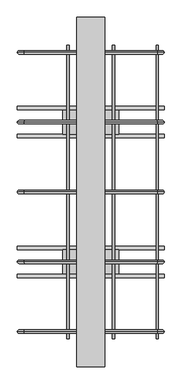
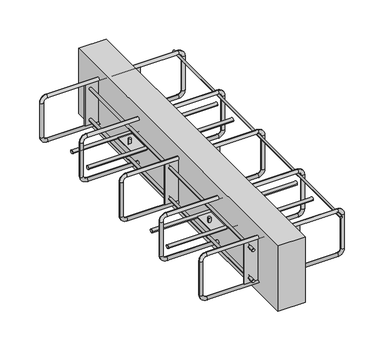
"""IFC4 building model written with IfcOpenShell, lengths in millimetres: fastener geometry, ACINOXplus_Typenreihe_Ux-Ox : OB+ S2."""

from ifc_helpers import new_model, si_unit, point, frame, frame_2d, origin, place, context, project, spatial, polyline, circle_curve, ellipse_curve, trimmed, segment, composite_curve, outline, extrude, source, transform, mapped, element, save
from ifc_brep_helpers import cylinder_surface, revolved_surface, advanced_brep


def fastener_c893254c(model_context):
    return source(origin(), model_context, "Body", "SolidModel", [
        extrude(outline(composite_curve([segment(trimmed(circle_curve(frame_2d((-40.5, 190.0)), 3.0), [point((-40.5, 193.0))], [point((-40.5, 187.0))], False, "CARTESIAN"), True, "CONTINUOUS"), segment(trimmed(circle_curve(frame_2d((-40.5, 190.0)), 3.0), [point((-40.5, 187.0))], [point((-40.5, 193.0))], False, "CARTESIAN"), True, "CONTINUOUS")], self_intersect=False)), frame((0.0, -420.0, 0.0), z_axis=(0.0, 1.0, 0.0), x_axis=(0.0, 0.0, 1.0)), (0.0, 0.0, 1.0), 840.0),
        extrude(outline(composite_curve([segment(trimmed(circle_curve(frame_2d((-240.0, -100.0)), 5.0), [point((-245.0, -100.0))], [point((-235.0, -100.0))], False, "CARTESIAN"), True, "CONTINUOUS"), segment(trimmed(circle_curve(frame_2d((-240.0, -100.0)), 5.0), [point((-235.0, -100.0))], [point((-245.0, -100.0))], False, "CARTESIAN"), True, "CONTINUOUS")], self_intersect=False)), frame((-210.0, 0.0, 0.0), z_axis=(1.0, 0.0, 0.0), x_axis=(0.0, 1.0, 0.0)), (0.0, 0.0, 1.0), 420.0),
        extrude(outline(composite_curve([segment(trimmed(circle_curve(frame_2d((-160.0, -100.0)), 5.0), [point((-165.0, -100.0))], [point((-155.0, -100.0))], False, "CARTESIAN"), True, "CONTINUOUS"), segment(trimmed(circle_curve(frame_2d((-160.0, -100.0)), 5.0), [point((-155.0, -100.0))], [point((-165.0, -100.0))], False, "CARTESIAN"), True, "CONTINUOUS")], self_intersect=False)), frame((-210.0, 0.0, 0.0), z_axis=(1.0, 0.0, 0.0), x_axis=(0.0, 1.0, 0.0)), (0.0, 0.0, 1.0), 420.0),
        extrude(outline(composite_curve([segment(trimmed(circle_curve(frame_2d((-65.0, -200.0)), 4.0), [point((-61.0, -200.0))], [point((-69.0, -200.0))], False, "CARTESIAN"), True, "CONTINUOUS"), segment(trimmed(circle_curve(frame_2d((-65.0, -200.0)), 4.0), [point((-69.0, -200.0))], [point((-61.0, -200.0))], False, "CARTESIAN"), True, "CONTINUOUS")], self_intersect=False)), frame((0.0, 0.0, -98.5), z_axis=(0.0, 0.0, 1.0), x_axis=(1.0, 0.0, 0.0)), (0.0, 0.0, 1.0), 13.5),
        extrude(outline(composite_curve([segment(trimmed(circle_curve(frame_2d((65.0, -200.0)), 4.0), [point((69.0, -200.0))], [point((61.0, -200.0))], False, "CARTESIAN"), True, "CONTINUOUS"), segment(trimmed(circle_curve(frame_2d((65.0, -200.0)), 4.0), [point((61.0, -200.0))], [point((69.0, -200.0))], False, "CARTESIAN"), True, "CONTINUOUS")], self_intersect=False)), frame((0.0, 0.0, -98.5), z_axis=(0.0, 0.0, 1.0), x_axis=(1.0, 0.0, 0.0)), (0.0, 0.0, 1.0), 13.5),
        extrude(outline(composite_curve([segment(trimmed(circle_curve(frame_2d((-65.0, -200.0)), 4.0), [point((-69.0, -200.0))], [point((-61.0, -200.0))], False, "CARTESIAN"), True, "CONTINUOUS"), segment(trimmed(circle_curve(frame_2d((-65.0, -200.0)), 4.0), [point((-61.0, -200.0))], [point((-69.0, -200.0))], False, "CARTESIAN"), True, "CONTINUOUS")], self_intersect=False)), frame((0.0, 0.0, -115.0), z_axis=(0.0, 0.0, 1.0), x_axis=(1.0, 0.0, 0.0)), (0.0, 0.0, 1.0), 13.5),
        extrude(outline(composite_curve([segment(trimmed(circle_curve(frame_2d((65.0, -200.0)), 4.0), [point((61.0, -200.0))], [point((69.0, -200.0))], False, "CARTESIAN"), True, "CONTINUOUS"), segment(trimmed(circle_curve(frame_2d((65.0, -200.0)), 4.0), [point((69.0, -200.0))], [point((61.0, -200.0))], False, "CARTESIAN"), True, "CONTINUOUS")], self_intersect=False)), frame((0.0, 0.0, -115.0), z_axis=(0.0, 0.0, 1.0), x_axis=(1.0, 0.0, 0.0)), (0.0, 0.0, 1.0), 13.5),
        extrude(outline(polyline([(80.0, -165.0), (80.0, -235.0), (-80.0, -235.0), (-80.0, -165.0), (80.0, -165.0)])), frame((0.0, 0.0, -101.5), z_axis=(0.0, 0.0, 1.0), x_axis=(1.0, 0.0, 0.0)), (0.0, 0.0, 1.0), 3.0),
        extrude(outline(composite_curve([segment(trimmed(circle_curve(frame_2d((160.0, -100.0)), 5.0), [point((155.0, -100.0))], [point((165.0, -100.0))], False, "CARTESIAN"), True, "CONTINUOUS"), segment(trimmed(circle_curve(frame_2d((160.0, -100.0)), 5.0), [point((165.0, -100.0))], [point((155.0, -100.0))], False, "CARTESIAN"), True, "CONTINUOUS")], self_intersect=False)), frame((-210.0, 0.0, 0.0), z_axis=(1.0, 0.0, 0.0), x_axis=(0.0, 1.0, 0.0)), (0.0, 0.0, 1.0), 420.0),
        extrude(outline(composite_curve([segment(trimmed(circle_curve(frame_2d((240.0, -100.0)), 5.0), [point((235.0, -100.0))], [point((245.0, -100.0))], False, "CARTESIAN"), True, "CONTINUOUS"), segment(trimmed(circle_curve(frame_2d((240.0, -100.0)), 5.0), [point((245.0, -100.0))], [point((235.0, -100.0))], False, "CARTESIAN"), True, "CONTINUOUS")], self_intersect=False)), frame((-210.0, 0.0, 0.0), z_axis=(1.0, 0.0, 0.0), x_axis=(0.0, 1.0, 0.0)), (0.0, 0.0, 1.0), 420.0),
        extrude(outline(composite_curve([segment(trimmed(circle_curve(frame_2d((-65.0, 200.0)), 4.0), [point((-61.0, 200.0))], [point((-69.0, 200.0))], False, "CARTESIAN"), True, "CONTINUOUS"), segment(trimmed(circle_curve(frame_2d((-65.0, 200.0)), 4.0), [point((-69.0, 200.0))], [point((-61.0, 200.0))], False, "CARTESIAN"), True, "CONTINUOUS")], self_intersect=False)), frame((0.0, 0.0, -98.5), z_axis=(0.0, 0.0, 1.0), x_axis=(1.0, 0.0, 0.0)), (0.0, 0.0, 1.0), 13.5),
        extrude(outline(composite_curve([segment(trimmed(circle_curve(frame_2d((65.0, 200.0)), 4.0), [point((69.0, 200.0))], [point((61.0, 200.0))], False, "CARTESIAN"), True, "CONTINUOUS"), segment(trimmed(circle_curve(frame_2d((65.0, 200.0)), 4.0), [point((61.0, 200.0))], [point((69.0, 200.0))], False, "CARTESIAN"), True, "CONTINUOUS")], self_intersect=False)), frame((0.0, 0.0, -98.5), z_axis=(0.0, 0.0, 1.0), x_axis=(1.0, 0.0, 0.0)), (0.0, 0.0, 1.0), 13.5),
        extrude(outline(composite_curve([segment(trimmed(circle_curve(frame_2d((-65.0, 200.0)), 4.0), [point((-69.0, 200.0))], [point((-61.0, 200.0))], False, "CARTESIAN"), True, "CONTINUOUS"), segment(trimmed(circle_curve(frame_2d((-65.0, 200.0)), 4.0), [point((-61.0, 200.0))], [point((-69.0, 200.0))], False, "CARTESIAN"), True, "CONTINUOUS")], self_intersect=False)), frame((0.0, 0.0, -115.0), z_axis=(0.0, 0.0, 1.0), x_axis=(1.0, 0.0, 0.0)), (0.0, 0.0, 1.0), 13.5),
        extrude(outline(composite_curve([segment(trimmed(circle_curve(frame_2d((65.0, 200.0)), 4.0), [point((61.0, 200.0))], [point((69.0, 200.0))], False, "CARTESIAN"), True, "CONTINUOUS"), segment(trimmed(circle_curve(frame_2d((65.0, 200.0)), 4.0), [point((69.0, 200.0))], [point((61.0, 200.0))], False, "CARTESIAN"), True, "CONTINUOUS")], self_intersect=False)), frame((0.0, 0.0, -115.0), z_axis=(0.0, 0.0, 1.0), x_axis=(1.0, 0.0, 0.0)), (0.0, 0.0, 1.0), 13.5),
        extrude(outline(polyline([(80.0, 235.0), (80.0, 165.0), (-80.0, 165.0), (-80.0, 235.0), (80.0, 235.0)])), frame((0.0, 0.0, -101.5), z_axis=(0.0, 0.0, 1.0), x_axis=(1.0, 0.0, 0.0)), (0.0, 0.0, 1.0), 3.0),
        extrude(outline(polyline([(40.0, 500.0), (40.0, -500.0), (-40.0, -500.0), (-40.0, 500.0), (40.0, 500.0)])), frame((0.0, 0.0, -200.0), z_axis=(0.0, 0.0, 1.0), x_axis=(1.0, 0.0, 0.0)), (0.0, 0.0, 1.0), 200.0),
        extrude(outline(polyline([(80.0, 1.5), (80.0, -1.5), (-80.0, -1.5), (-80.0, 1.5), (80.0, 1.5)])), frame((0.0, 0.0, -162.5), z_axis=(0.0, 0.0, 1.0), x_axis=(1.0, 0.0, 0.0)), (0.0, 0.0, 1.0), 125.0),
        extrude(outline(polyline([(80.0, -398.5), (80.0, -401.5), (-80.0, -401.5), (-80.0, -398.5), (80.0, -398.5)])), frame((0.0, 0.0, -162.5), z_axis=(0.0, 0.0, 1.0), x_axis=(1.0, 0.0, 0.0)), (0.0, 0.0, 1.0), 125.0),
        extrude(outline(polyline([(80.0, 401.5), (80.0, 398.5), (-80.0, 398.5), (-80.0, 401.5), (80.0, 401.5)])), frame((0.0, 0.0, -162.5), z_axis=(0.0, 0.0, 1.0), x_axis=(1.0, 0.0, 0.0)), (0.0, 0.0, 1.0), 125.0),
        extrude(outline(composite_curve([segment(trimmed(circle_curve(frame_2d((-147.5, -65.0)), 4.0), [point((-147.5, -61.0))], [point((-147.5, -69.0))], False, "CARTESIAN"), True, "CONTINUOUS"), segment(trimmed(circle_curve(frame_2d((-147.5, -65.0)), 4.0), [point((-147.5, -69.0))], [point((-147.5, -61.0))], False, "CARTESIAN"), True, "CONTINUOUS")], self_intersect=False)), frame((0.0, -420.0, 0.0), z_axis=(0.0, 1.0, 0.0), x_axis=(0.0, 0.0, 1.0)), (0.0, 0.0, 1.0), 18.5),
        extrude(outline(composite_curve([segment(trimmed(circle_curve(frame_2d((-147.5, -65.0)), 4.0), [point((-147.5, -69.0))], [point((-147.5, -61.0))], False, "CARTESIAN"), True, "CONTINUOUS"), segment(trimmed(circle_curve(frame_2d((-147.5, -65.0)), 4.0), [point((-147.5, -61.0))], [point((-147.5, -69.0))], False, "CARTESIAN"), True, "CONTINUOUS")], self_intersect=False)), frame((0.0, -398.5, 0.0), z_axis=(0.0, 1.0, 0.0), x_axis=(0.0, 0.0, 1.0)), (0.0, 0.0, 1.0), 397.0),
        extrude(outline(composite_curve([segment(trimmed(circle_curve(frame_2d((-147.5, -65.0)), 4.0), [point((-147.5, -69.0))], [point((-147.5, -61.0))], False, "CARTESIAN"), True, "CONTINUOUS"), segment(trimmed(circle_curve(frame_2d((-147.5, -65.0)), 4.0), [point((-147.5, -61.0))], [point((-147.5, -69.0))], False, "CARTESIAN"), True, "CONTINUOUS")], self_intersect=False)), frame((0.0, 401.5, 0.0), z_axis=(0.0, 1.0, 0.0), x_axis=(0.0, 0.0, 1.0)), (0.0, 0.0, 1.0), 18.5),
        extrude(outline(composite_curve([segment(trimmed(circle_curve(frame_2d((-147.5, -65.0)), 4.0), [point((-147.5, -69.0))], [point((-147.5, -61.0))], False, "CARTESIAN"), True, "CONTINUOUS"), segment(trimmed(circle_curve(frame_2d((-147.5, -65.0)), 4.0), [point((-147.5, -61.0))], [point((-147.5, -69.0))], False, "CARTESIAN"), True, "CONTINUOUS")], self_intersect=False)), frame((0.0, 1.5, 0.0), z_axis=(0.0, 1.0, 0.0), x_axis=(0.0, 0.0, 1.0)), (0.0, 0.0, 1.0), 397.0),
        extrude(outline(composite_curve([segment(trimmed(circle_curve(frame_2d((-147.5, 65.0)), 4.0), [point((-147.5, 69.0))], [point((-147.5, 61.0))], False, "CARTESIAN"), True, "CONTINUOUS"), segment(trimmed(circle_curve(frame_2d((-147.5, 65.0)), 4.0), [point((-147.5, 61.0))], [point((-147.5, 69.0))], False, "CARTESIAN"), True, "CONTINUOUS")], self_intersect=False)), frame((0.0, -420.0, 0.0), z_axis=(0.0, 1.0, 0.0), x_axis=(0.0, 0.0, 1.0)), (0.0, 0.0, 1.0), 18.5),
        extrude(outline(composite_curve([segment(trimmed(circle_curve(frame_2d((-147.5, 65.0)), 4.0), [point((-147.5, 61.0))], [point((-147.5, 69.0))], False, "CARTESIAN"), True, "CONTINUOUS"), segment(trimmed(circle_curve(frame_2d((-147.5, 65.0)), 4.0), [point((-147.5, 69.0))], [point((-147.5, 61.0))], False, "CARTESIAN"), True, "CONTINUOUS")], self_intersect=False)), frame((0.0, -398.5, 0.0), z_axis=(0.0, 1.0, 0.0), x_axis=(0.0, 0.0, 1.0)), (0.0, 0.0, 1.0), 397.0),
        extrude(outline(composite_curve([segment(trimmed(circle_curve(frame_2d((-147.5, 65.0)), 4.0), [point((-147.5, 61.0))], [point((-147.5, 69.0))], False, "CARTESIAN"), True, "CONTINUOUS"), segment(trimmed(circle_curve(frame_2d((-147.5, 65.0)), 4.0), [point((-147.5, 69.0))], [point((-147.5, 61.0))], False, "CARTESIAN"), True, "CONTINUOUS")], self_intersect=False)), frame((0.0, 401.5, 0.0), z_axis=(0.0, 1.0, 0.0), x_axis=(0.0, 0.0, 1.0)), (0.0, 0.0, 1.0), 18.5),
        extrude(outline(composite_curve([segment(trimmed(circle_curve(frame_2d((-147.5, 65.0)), 4.0), [point((-147.5, 61.0))], [point((-147.5, 69.0))], False, "CARTESIAN"), True, "CONTINUOUS"), segment(trimmed(circle_curve(frame_2d((-147.5, 65.0)), 4.0), [point((-147.5, 69.0))], [point((-147.5, 61.0))], False, "CARTESIAN"), True, "CONTINUOUS")], self_intersect=False)), frame((0.0, 1.5, 0.0), z_axis=(0.0, 1.0, 0.0), x_axis=(0.0, 0.0, 1.0)), (0.0, 0.0, 1.0), 397.0),
        extrude(outline(composite_curve([segment(trimmed(circle_curve(frame_2d((-52.5, -65.0)), 4.0), [point((-52.5, -69.0))], [point((-52.5, -61.0))], False, "CARTESIAN"), True, "CONTINUOUS"), segment(trimmed(circle_curve(frame_2d((-52.5, -65.0)), 4.0), [point((-52.5, -61.0))], [point((-52.5, -69.0))], False, "CARTESIAN"), True, "CONTINUOUS")], self_intersect=False)), frame((0.0, 401.5, 0.0), z_axis=(0.0, 1.0, 0.0), x_axis=(0.0, 0.0, 1.0)), (0.0, 0.0, 1.0), 18.5),
        extrude(outline(composite_curve([segment(trimmed(circle_curve(frame_2d((-52.5, -65.0)), 4.0), [point((-52.5, -61.0))], [point((-52.5, -69.0))], False, "CARTESIAN"), True, "CONTINUOUS"), segment(trimmed(circle_curve(frame_2d((-52.5, -65.0)), 4.0), [point((-52.5, -69.0))], [point((-52.5, -61.0))], False, "CARTESIAN"), True, "CONTINUOUS")], self_intersect=False)), frame((0.0, -420.0, 0.0), z_axis=(0.0, 1.0, 0.0), x_axis=(0.0, 0.0, 1.0)), (0.0, 0.0, 1.0), 18.5),
        extrude(outline(composite_curve([segment(trimmed(circle_curve(frame_2d((-52.5, -65.0)), 4.0), [point((-52.5, -69.0))], [point((-52.5, -61.0))], False, "CARTESIAN"), True, "CONTINUOUS"), segment(trimmed(circle_curve(frame_2d((-52.5, -65.0)), 4.0), [point((-52.5, -61.0))], [point((-52.5, -69.0))], False, "CARTESIAN"), True, "CONTINUOUS")], self_intersect=False)), frame((0.0, -398.5, 0.0), z_axis=(0.0, 1.0, 0.0), x_axis=(0.0, 0.0, 1.0)), (0.0, 0.0, 1.0), 397.0),
        extrude(outline(composite_curve([segment(trimmed(circle_curve(frame_2d((-52.5, -65.0)), 4.0), [point((-52.5, -69.0))], [point((-52.5, -61.0))], False, "CARTESIAN"), True, "CONTINUOUS"), segment(trimmed(circle_curve(frame_2d((-52.5, -65.0)), 4.0), [point((-52.5, -61.0))], [point((-52.5, -69.0))], False, "CARTESIAN"), True, "CONTINUOUS")], self_intersect=False)), frame((0.0, 1.5, 0.0), z_axis=(0.0, 1.0, 0.0), x_axis=(0.0, 0.0, 1.0)), (0.0, 0.0, 1.0), 397.0),
        extrude(outline(composite_curve([segment(trimmed(circle_curve(frame_2d((-52.5, 65.0)), 4.0), [point((-52.5, 61.0))], [point((-52.5, 69.0))], False, "CARTESIAN"), True, "CONTINUOUS"), segment(trimmed(circle_curve(frame_2d((-52.5, 65.0)), 4.0), [point((-52.5, 69.0))], [point((-52.5, 61.0))], False, "CARTESIAN"), True, "CONTINUOUS")], self_intersect=False)), frame((0.0, 401.5, 0.0), z_axis=(0.0, 1.0, 0.0), x_axis=(0.0, 0.0, 1.0)), (0.0, 0.0, 1.0), 18.5),
        extrude(outline(composite_curve([segment(trimmed(circle_curve(frame_2d((-52.5, 65.0)), 4.0), [point((-52.5, 69.0))], [point((-52.5, 61.0))], False, "CARTESIAN"), True, "CONTINUOUS"), segment(trimmed(circle_curve(frame_2d((-52.5, 65.0)), 4.0), [point((-52.5, 61.0))], [point((-52.5, 69.0))], False, "CARTESIAN"), True, "CONTINUOUS")], self_intersect=False)), frame((0.0, -420.0, 0.0), z_axis=(0.0, 1.0, 0.0), x_axis=(0.0, 0.0, 1.0)), (0.0, 0.0, 1.0), 18.5),
        extrude(outline(composite_curve([segment(trimmed(circle_curve(frame_2d((-52.5, 65.0)), 4.0), [point((-52.5, 61.0))], [point((-52.5, 69.0))], False, "CARTESIAN"), True, "CONTINUOUS"), segment(trimmed(circle_curve(frame_2d((-52.5, 65.0)), 4.0), [point((-52.5, 69.0))], [point((-52.5, 61.0))], False, "CARTESIAN"), True, "CONTINUOUS")], self_intersect=False)), frame((0.0, -398.5, 0.0), z_axis=(0.0, 1.0, 0.0), x_axis=(0.0, 0.0, 1.0)), (0.0, 0.0, 1.0), 397.0),
        extrude(outline(composite_curve([segment(trimmed(circle_curve(frame_2d((-52.5, 65.0)), 4.0), [point((-52.5, 61.0))], [point((-52.5, 69.0))], False, "CARTESIAN"), True, "CONTINUOUS"), segment(trimmed(circle_curve(frame_2d((-52.5, 65.0)), 4.0), [point((-52.5, 69.0))], [point((-52.5, 61.0))], False, "CARTESIAN"), True, "CONTINUOUS")], self_intersect=False)), frame((0.0, 1.5, 0.0), z_axis=(0.0, 1.0, 0.0), x_axis=(0.0, 0.0, 1.0)), (0.0, 0.0, 1.0), 397.0),
        advanced_brep(
        [(190.0, 200.0, -37.5), (190.0, 200.0, -27.5), (-190.0, 200.0, -27.5), (-190.0, 200.0, -37.5), (-200.0, 200.0, -47.5), (-210.0, 200.0, -47.5), (-210.0, 200.0, -152.5), (-200.0, 200.0, -152.5), (-190.0, 200.0, -162.5), (-190.0, 200.0, -172.5), (190.0, 200.0, -172.5), (190.0, 200.0, -162.5), (200.0, 200.0, -152.5), (210.0, 200.0, -152.5), (210.0, 200.0, -47.5), (200.0, 200.0, -47.5)],
        [
            (0, 1, circle_curve(frame((190.0, 200.0, -32.5), z_axis=(-1.0, 0.0, 0.0), x_axis=(0.0, 0.0, -1.0)), 5.0)),
            (1, 2),
            (2, 3, circle_curve(frame((-190.0, 200.0, -32.5), z_axis=(1.0, 0.0, 0.0), x_axis=(0.0, 0.0, -1.0)), 5.0)),
            (3, 0),
            (1, 0, circle_curve(frame((190.0, 200.0, -32.5), z_axis=(-1.0, 0.0, 0.0), x_axis=(0.0, 0.0, -1.0)), 5.0)),
            (3, 2, circle_curve(frame((-190.0, 200.0, -32.5), z_axis=(1.0, 0.0, 0.0), x_axis=(0.0, 0.0, -1.0)), 5.0)),
            (4, 3, circle_curve(frame((-190.0, 200.0, -47.5), z_axis=(0.0, 1.0, 0.0), x_axis=(0.0, 0.0, 1.0)), 10.0)),
            (2, 5, circle_curve(frame((-190.0, 200.0, -47.5), z_axis=(0.0, -1.0, 0.0), x_axis=(0.0, 0.0, 1.0)), 20.0)),
            (5, 4, circle_curve(frame((-205.0, 200.0, -47.5), z_axis=(0.0, 0.0, 1.0), x_axis=(1.0, 0.0, 0.0)), 5.0)),
            (4, 5, circle_curve(frame((-205.0, 200.0, -47.5), z_axis=(0.0, 0.0, 1.0), x_axis=(1.0, 0.0, 0.0)), 5.0)),
            (5, 6),
            (6, 7, circle_curve(frame((-205.0, 200.0, -152.5), z_axis=(0.0, 0.0, 1.0), x_axis=(1.0, 0.0, 0.0)), 5.0)),
            (7, 4),
            (7, 6, circle_curve(frame((-205.0, 200.0, -152.5), z_axis=(0.0, 0.0, 1.0), x_axis=(1.0, 0.0, 0.0)), 5.0)),
            (8, 7, circle_curve(frame((-190.0, 200.0, -152.5), z_axis=(0.0, 1.0, 0.0), x_axis=(-1.0, 0.0, 0.0)), 10.0)),
            (6, 9, circle_curve(frame((-190.0, 200.0, -152.5), z_axis=(0.0, -1.0, 0.0), x_axis=(-1.0, 0.0, 0.0)), 20.0)),
            (9, 8, circle_curve(frame((-190.0, 200.0, -167.5), z_axis=(-1.0, 0.0, 0.0), x_axis=(0.0, 0.0, 1.0)), 5.0)),
            (8, 9, circle_curve(frame((-190.0, 200.0, -167.5), z_axis=(-1.0, 0.0, 0.0), x_axis=(0.0, 0.0, 1.0)), 5.0)),
            (9, 10),
            (10, 11, circle_curve(frame((190.0, 200.0, -167.5), z_axis=(-1.0, 0.0, 0.0), x_axis=(0.0, 0.0, 1.0)), 5.0)),
            (11, 8),
            (11, 10, circle_curve(frame((190.0, 200.0, -167.5), z_axis=(-1.0, 0.0, 0.0), x_axis=(0.0, 0.0, 1.0)), 5.0)),
            (12, 11, circle_curve(frame((190.0, 200.0, -152.5), z_axis=(0.0, 1.0, 0.0), x_axis=(0.0, 0.0, -1.0)), 10.0)),
            (10, 13, circle_curve(frame((190.0, 200.0, -152.5), z_axis=(0.0, -1.0, 0.0), x_axis=(0.0, 0.0, -1.0)), 20.0)),
            (13, 12, circle_curve(frame((205.0, 200.0, -152.5), z_axis=(0.0, 0.0, -1.0), x_axis=(-1.0, 0.0, 0.0)), 5.0)),
            (12, 13, circle_curve(frame((205.0, 200.0, -152.5), z_axis=(0.0, 0.0, -1.0), x_axis=(-1.0, 0.0, 0.0)), 5.0)),
            (13, 14),
            (14, 15, circle_curve(frame((205.0, 200.0, -47.5), z_axis=(0.0, 0.0, -1.0), x_axis=(-1.0, 0.0, 0.0)), 5.0)),
            (15, 12),
            (15, 14, circle_curve(frame((205.0, 200.0, -47.5), z_axis=(0.0, 0.0, -1.0), x_axis=(-1.0, 0.0, 0.0)), 5.0)),
            (0, 15, circle_curve(frame((190.0, 200.0, -47.5), z_axis=(0.0, 1.0, 0.0), x_axis=(1.0, 0.0, 0.0)), 10.0)),
            (14, 1, circle_curve(frame((190.0, 200.0, -47.5), z_axis=(0.0, -1.0, 0.0), x_axis=(1.0, 0.0, 0.0)), 20.0)),
        ],
        [
            cylinder_surface(frame((190.0, 200.0, -32.5), z_axis=(1.0, 0.0, 0.0), x_axis=(0.0, 0.0, -1.0)), 5.0),
            revolved_surface(trimmed(ellipse_curve(frame((-190.0, 200.0, -32.5), z_axis=(1.0, 0.0, 0.0), x_axis=(0.0, 0.0, -1.0)), 5.0, 5.0), [point((-190.0, 200.0, -27.5))], [point((-190.0, 200.0, -37.5))], True, "CARTESIAN"), (-190.0, 200.0, -47.5), (0.0, -1.0, 0.0)),
            revolved_surface(trimmed(ellipse_curve(frame((-190.0, 200.0, -32.5), z_axis=(1.0, 0.0, 0.0), x_axis=(0.0, 0.0, -1.0)), 5.0, 5.0), [point((-190.0, 200.0, -37.5))], [point((-190.0, 200.0, -27.5))], True, "CARTESIAN"), (-190.0, 200.0, -47.5), (0.0, -1.0, 0.0)),
            cylinder_surface(frame((-205.0, 200.0, -47.5), z_axis=(0.0, 0.0, 1.0), x_axis=(1.0, 0.0, 0.0)), 5.0),
            revolved_surface(trimmed(ellipse_curve(frame((-205.0, 200.0, -152.5), z_axis=(0.0, 0.0, 1.0), x_axis=(1.0, 0.0, 0.0)), 5.0, 5.0), [point((-210.0, 200.0, -152.5))], [point((-200.0, 200.0, -152.5))], True, "CARTESIAN"), (-190.0, 200.0, -152.5), (0.0, -1.0, 0.0)),
            revolved_surface(trimmed(ellipse_curve(frame((-205.0, 200.0, -152.5), z_axis=(0.0, 0.0, 1.0), x_axis=(1.0, 0.0, 0.0)), 5.0, 5.0), [point((-200.0, 200.0, -152.5))], [point((-210.0, 200.0, -152.5))], True, "CARTESIAN"), (-190.0, 200.0, -152.5), (0.0, -1.0, 0.0)),
            cylinder_surface(frame((-190.0, 200.0, -167.5), z_axis=(-1.0, 0.0, 0.0), x_axis=(0.0, 0.0, 1.0)), 5.0),
            revolved_surface(trimmed(ellipse_curve(frame((190.0, 200.0, -167.5), z_axis=(-1.0, 0.0, 0.0), x_axis=(0.0, 0.0, 1.0)), 5.0, 5.0), [point((190.0, 200.0, -172.5))], [point((190.0, 200.0, -162.5))], True, "CARTESIAN"), (190.0, 200.0, -152.5), (0.0, -1.0, 0.0)),
            revolved_surface(trimmed(ellipse_curve(frame((190.0, 200.0, -167.5), z_axis=(-1.0, 0.0, 0.0), x_axis=(0.0, 0.0, 1.0)), 5.0, 5.0), [point((190.0, 200.0, -162.5))], [point((190.0, 200.0, -172.5))], True, "CARTESIAN"), (190.0, 200.0, -152.5), (0.0, -1.0, 0.0)),
            cylinder_surface(frame((205.0, 200.0, -152.5), z_axis=(0.0, 0.0, -1.0), x_axis=(-1.0, 0.0, 0.0)), 5.0),
            revolved_surface(trimmed(ellipse_curve(frame((205.0, 200.0, -47.5), z_axis=(0.0, 0.0, -1.0), x_axis=(-1.0, 0.0, 0.0)), 5.0, 5.0), [point((210.0, 200.0, -47.5))], [point((200.0, 200.0, -47.5))], True, "CARTESIAN"), (190.0, 200.0, -47.5), (0.0, -1.0, 0.0)),
            revolved_surface(trimmed(ellipse_curve(frame((205.0, 200.0, -47.5), z_axis=(0.0, 0.0, -1.0), x_axis=(-1.0, 0.0, 0.0)), 5.0, 5.0), [point((200.0, 200.0, -47.5))], [point((210.0, 200.0, -47.5))], True, "CARTESIAN"), (190.0, 200.0, -47.5), (0.0, -1.0, 0.0)),
        ],
        [
            (0, [[1, 2, 3, 4]]),
            (0, [[5, -4, 6, -2]]),
            (1, [[7, -3, 8, 9]]),
            (2, [[-8, -6, -7, 10]]),
            (3, [[-9, 11, 12, 13]]),
            (3, [[-10, -13, 14, -11]]),
            (4, [[15, -12, 16, 17]]),
            (5, [[-16, -14, -15, 18]]),
            (6, [[-17, 19, 20, 21]]),
            (6, [[-18, -21, 22, -19]]),
            (7, [[23, -20, 24, 25]]),
            (8, [[-24, -22, -23, 26]]),
            (9, [[-25, 27, 28, 29]]),
            (9, [[-26, -29, 30, -27]]),
            (10, [[31, -28, 32, -1]]),
            (11, [[-32, -30, -31, -5]]),
        ],
    ),
        advanced_brep(
        [(190.0, 0.0, -37.5), (190.0, 0.0, -27.5), (-190.0, 0.0, -27.5), (-190.0, 0.0, -37.5), (-200.0, 0.0, -47.5), (-210.0, 0.0, -47.5), (-210.0, 0.0, -152.5), (-200.0, 0.0, -152.5), (-190.0, 0.0, -162.5), (-190.0, 0.0, -172.5), (190.0, 0.0, -172.5), (190.0, 0.0, -162.5), (200.0, 0.0, -152.5), (210.0, 0.0, -152.5), (210.0, 0.0, -47.5), (200.0, 0.0, -47.5)],
        [
            (0, 1, circle_curve(frame((190.0, 0.0, -32.5), z_axis=(-1.0, 0.0, 0.0), x_axis=(0.0, 0.0, -1.0)), 5.0)),
            (1, 2),
            (2, 3, circle_curve(frame((-190.0, 0.0, -32.5), z_axis=(1.0, 0.0, 0.0), x_axis=(0.0, 0.0, -1.0)), 5.0)),
            (3, 0),
            (1, 0, circle_curve(frame((190.0, 0.0, -32.5), z_axis=(-1.0, 0.0, 0.0), x_axis=(0.0, 0.0, -1.0)), 5.0)),
            (3, 2, circle_curve(frame((-190.0, 0.0, -32.5), z_axis=(1.0, 0.0, 0.0), x_axis=(0.0, 0.0, -1.0)), 5.0)),
            (4, 3, circle_curve(frame((-190.0, 0.0, -47.5), z_axis=(0.0, 1.0, 0.0), x_axis=(0.0, 0.0, 1.0)), 10.0)),
            (2, 5, circle_curve(frame((-190.0, 0.0, -47.5), z_axis=(0.0, -1.0, 0.0), x_axis=(0.0, 0.0, 1.0)), 20.0)),
            (5, 4, circle_curve(frame((-205.0, 0.0, -47.5), z_axis=(0.0, 0.0, 1.0), x_axis=(1.0, 0.0, 0.0)), 5.0)),
            (4, 5, circle_curve(frame((-205.0, 0.0, -47.5), z_axis=(0.0, 0.0, 1.0), x_axis=(1.0, 0.0, 0.0)), 5.0)),
            (5, 6),
            (6, 7, circle_curve(frame((-205.0, 0.0, -152.5), z_axis=(0.0, 0.0, 1.0), x_axis=(1.0, 0.0, 0.0)), 5.0)),
            (7, 4),
            (7, 6, circle_curve(frame((-205.0, 0.0, -152.5), z_axis=(0.0, 0.0, 1.0), x_axis=(1.0, 0.0, 0.0)), 5.0)),
            (8, 7, circle_curve(frame((-190.0, 0.0, -152.5), z_axis=(0.0, 1.0, 0.0), x_axis=(-1.0, 0.0, 0.0)), 10.0)),
            (6, 9, circle_curve(frame((-190.0, 0.0, -152.5), z_axis=(0.0, -1.0, 0.0), x_axis=(-1.0, 0.0, 0.0)), 20.0)),
            (9, 8, circle_curve(frame((-190.0, 0.0, -167.5), z_axis=(-1.0, 0.0, 0.0), x_axis=(0.0, 0.0, 1.0)), 5.0)),
            (8, 9, circle_curve(frame((-190.0, 0.0, -167.5), z_axis=(-1.0, 0.0, 0.0), x_axis=(0.0, 0.0, 1.0)), 5.0)),
            (9, 10),
            (10, 11, circle_curve(frame((190.0, 0.0, -167.5), z_axis=(-1.0, 0.0, 0.0), x_axis=(0.0, 0.0, 1.0)), 5.0)),
            (11, 8),
            (11, 10, circle_curve(frame((190.0, 0.0, -167.5), z_axis=(-1.0, 0.0, 0.0), x_axis=(0.0, 0.0, 1.0)), 5.0)),
            (12, 11, circle_curve(frame((190.0, 0.0, -152.5), z_axis=(0.0, 1.0, 0.0), x_axis=(0.0, 0.0, -1.0)), 10.0)),
            (10, 13, circle_curve(frame((190.0, 0.0, -152.5), z_axis=(0.0, -1.0, 0.0), x_axis=(0.0, 0.0, -1.0)), 20.0)),
            (13, 12, circle_curve(frame((205.0, 0.0, -152.5), z_axis=(0.0, 0.0, -1.0), x_axis=(-1.0, 0.0, 0.0)), 5.0)),
            (12, 13, circle_curve(frame((205.0, 0.0, -152.5), z_axis=(0.0, 0.0, -1.0), x_axis=(-1.0, 0.0, 0.0)), 5.0)),
            (13, 14),
            (14, 15, circle_curve(frame((205.0, 0.0, -47.5), z_axis=(0.0, 0.0, -1.0), x_axis=(-1.0, 0.0, 0.0)), 5.0)),
            (15, 12),
            (15, 14, circle_curve(frame((205.0, 0.0, -47.5), z_axis=(0.0, 0.0, -1.0), x_axis=(-1.0, 0.0, 0.0)), 5.0)),
            (0, 15, circle_curve(frame((190.0, 0.0, -47.5), z_axis=(0.0, 1.0, 0.0), x_axis=(1.0, 0.0, 0.0)), 10.0)),
            (14, 1, circle_curve(frame((190.0, 0.0, -47.5), z_axis=(0.0, -1.0, 0.0), x_axis=(1.0, 0.0, 0.0)), 20.0)),
        ],
        [
            cylinder_surface(frame((190.0, 0.0, -32.5), z_axis=(1.0, 0.0, 0.0), x_axis=(0.0, 0.0, -1.0)), 5.0),
            revolved_surface(trimmed(ellipse_curve(frame((-190.0, 0.0, -32.5), z_axis=(1.0, 0.0, 0.0), x_axis=(0.0, 0.0, -1.0)), 5.0, 5.0), [point((-190.0, 0.0, -27.5))], [point((-190.0, 0.0, -37.5))], True, "CARTESIAN"), (-190.0, 0.0, -47.5), (0.0, -1.0, 0.0)),
            revolved_surface(trimmed(ellipse_curve(frame((-190.0, 0.0, -32.5), z_axis=(1.0, 0.0, 0.0), x_axis=(0.0, 0.0, -1.0)), 5.0, 5.0), [point((-190.0, 0.0, -37.5))], [point((-190.0, 0.0, -27.5))], True, "CARTESIAN"), (-190.0, 0.0, -47.5), (0.0, -1.0, 0.0)),
            cylinder_surface(frame((-205.0, 0.0, -47.5), z_axis=(0.0, 0.0, 1.0), x_axis=(1.0, 0.0, 0.0)), 5.0),
            revolved_surface(trimmed(ellipse_curve(frame((-205.0, 0.0, -152.5), z_axis=(0.0, 0.0, 1.0), x_axis=(1.0, 0.0, 0.0)), 5.0, 5.0), [point((-210.0, 0.0, -152.5))], [point((-200.0, 0.0, -152.5))], True, "CARTESIAN"), (-190.0, 0.0, -152.5), (0.0, -1.0, 0.0)),
            revolved_surface(trimmed(ellipse_curve(frame((-205.0, 0.0, -152.5), z_axis=(0.0, 0.0, 1.0), x_axis=(1.0, 0.0, 0.0)), 5.0, 5.0), [point((-200.0, 0.0, -152.5))], [point((-210.0, 0.0, -152.5))], True, "CARTESIAN"), (-190.0, 0.0, -152.5), (0.0, -1.0, 0.0)),
            cylinder_surface(frame((-190.0, 0.0, -167.5), z_axis=(-1.0, 0.0, 0.0), x_axis=(0.0, 0.0, 1.0)), 5.0),
            revolved_surface(trimmed(ellipse_curve(frame((190.0, 0.0, -167.5), z_axis=(-1.0, 0.0, 0.0), x_axis=(0.0, 0.0, 1.0)), 5.0, 5.0), [point((190.0, 0.0, -172.5))], [point((190.0, 0.0, -162.5))], True, "CARTESIAN"), (190.0, 0.0, -152.5), (0.0, -1.0, 0.0)),
            revolved_surface(trimmed(ellipse_curve(frame((190.0, 0.0, -167.5), z_axis=(-1.0, 0.0, 0.0), x_axis=(0.0, 0.0, 1.0)), 5.0, 5.0), [point((190.0, 0.0, -162.5))], [point((190.0, 0.0, -172.5))], True, "CARTESIAN"), (190.0, 0.0, -152.5), (0.0, -1.0, 0.0)),
            cylinder_surface(frame((205.0, 0.0, -152.5), z_axis=(0.0, 0.0, -1.0), x_axis=(-1.0, 0.0, 0.0)), 5.0),
            revolved_surface(trimmed(ellipse_curve(frame((205.0, 0.0, -47.5), z_axis=(0.0, 0.0, -1.0), x_axis=(-1.0, 0.0, 0.0)), 5.0, 5.0), [point((210.0, 0.0, -47.5))], [point((200.0, 0.0, -47.5))], True, "CARTESIAN"), (190.0, 0.0, -47.5), (0.0, -1.0, 0.0)),
            revolved_surface(trimmed(ellipse_curve(frame((205.0, 0.0, -47.5), z_axis=(0.0, 0.0, -1.0), x_axis=(-1.0, 0.0, 0.0)), 5.0, 5.0), [point((200.0, 0.0, -47.5))], [point((210.0, 0.0, -47.5))], True, "CARTESIAN"), (190.0, 0.0, -47.5), (0.0, -1.0, 0.0)),
        ],
        [
            (0, [[1, 2, 3, 4]]),
            (0, [[5, -4, 6, -2]]),
            (1, [[7, -3, 8, 9]]),
            (2, [[-8, -6, -7, 10]]),
            (3, [[-9, 11, 12, 13]]),
            (3, [[-10, -13, 14, -11]]),
            (4, [[15, -12, 16, 17]]),
            (5, [[-16, -14, -15, 18]]),
            (6, [[-17, 19, 20, 21]]),
            (6, [[-18, -21, 22, -19]]),
            (7, [[23, -20, 24, 25]]),
            (8, [[-24, -22, -23, 26]]),
            (9, [[-25, 27, 28, 29]]),
            (9, [[-26, -29, 30, -27]]),
            (10, [[31, -28, 32, -1]]),
            (11, [[-32, -30, -31, -5]]),
        ],
    ),
        advanced_brep(
        [(190.0, -200.0, -37.5), (190.0, -200.0, -27.5), (-190.0, -200.0, -27.5), (-190.0, -200.0, -37.5), (-200.0, -200.0, -47.5), (-210.0, -200.0, -47.5), (-210.0, -200.0, -152.5), (-200.0, -200.0, -152.5), (-190.0, -200.0, -162.5), (-190.0, -200.0, -172.5), (190.0, -200.0, -172.5), (190.0, -200.0, -162.5), (200.0, -200.0, -152.5), (210.0, -200.0, -152.5), (210.0, -200.0, -47.5), (200.0, -200.0, -47.5)],
        [
            (0, 1, circle_curve(frame((190.0, -200.0, -32.5), z_axis=(-1.0, 0.0, 0.0), x_axis=(0.0, 0.0, -1.0)), 5.0)),
            (1, 2),
            (2, 3, circle_curve(frame((-190.0, -200.0, -32.5), z_axis=(1.0, 0.0, 0.0), x_axis=(0.0, 0.0, -1.0)), 5.0)),
            (3, 0),
            (1, 0, circle_curve(frame((190.0, -200.0, -32.5), z_axis=(-1.0, 0.0, 0.0), x_axis=(0.0, 0.0, -1.0)), 5.0)),
            (3, 2, circle_curve(frame((-190.0, -200.0, -32.5), z_axis=(1.0, 0.0, 0.0), x_axis=(0.0, 0.0, -1.0)), 5.0)),
            (4, 3, circle_curve(frame((-190.0, -200.0, -47.5), z_axis=(0.0, 1.0, 0.0), x_axis=(0.0, 0.0, 1.0)), 10.0)),
            (2, 5, circle_curve(frame((-190.0, -200.0, -47.5), z_axis=(0.0, -1.0, 0.0), x_axis=(0.0, 0.0, 1.0)), 20.0)),
            (5, 4, circle_curve(frame((-205.0, -200.0, -47.5), z_axis=(0.0, 0.0, 1.0), x_axis=(1.0, 0.0, 0.0)), 5.0)),
            (4, 5, circle_curve(frame((-205.0, -200.0, -47.5), z_axis=(0.0, 0.0, 1.0), x_axis=(1.0, 0.0, 0.0)), 5.0)),
            (5, 6),
            (6, 7, circle_curve(frame((-205.0, -200.0, -152.5), z_axis=(0.0, 0.0, 1.0), x_axis=(1.0, 0.0, 0.0)), 5.0)),
            (7, 4),
            (7, 6, circle_curve(frame((-205.0, -200.0, -152.5), z_axis=(0.0, 0.0, 1.0), x_axis=(1.0, 0.0, 0.0)), 5.0)),
            (8, 7, circle_curve(frame((-190.0, -200.0, -152.5), z_axis=(0.0, 1.0, 0.0), x_axis=(-1.0, 0.0, 0.0)), 10.0)),
            (6, 9, circle_curve(frame((-190.0, -200.0, -152.5), z_axis=(0.0, -1.0, 0.0), x_axis=(-1.0, 0.0, 0.0)), 20.0)),
            (9, 8, circle_curve(frame((-190.0, -200.0, -167.5), z_axis=(-1.0, 0.0, 0.0), x_axis=(0.0, 0.0, 1.0)), 5.0)),
            (8, 9, circle_curve(frame((-190.0, -200.0, -167.5), z_axis=(-1.0, 0.0, 0.0), x_axis=(0.0, 0.0, 1.0)), 5.0)),
            (9, 10),
            (10, 11, circle_curve(frame((190.0, -200.0, -167.5), z_axis=(-1.0, 0.0, 0.0), x_axis=(0.0, 0.0, 1.0)), 5.0)),
            (11, 8),
            (11, 10, circle_curve(frame((190.0, -200.0, -167.5), z_axis=(-1.0, 0.0, 0.0), x_axis=(0.0, 0.0, 1.0)), 5.0)),
            (12, 11, circle_curve(frame((190.0, -200.0, -152.5), z_axis=(0.0, 1.0, 0.0), x_axis=(0.0, 0.0, -1.0)), 10.0)),
            (10, 13, circle_curve(frame((190.0, -200.0, -152.5), z_axis=(0.0, -1.0, 0.0), x_axis=(0.0, 0.0, -1.0)), 20.0)),
            (13, 12, circle_curve(frame((205.0, -200.0, -152.5), z_axis=(0.0, 0.0, -1.0), x_axis=(-1.0, 0.0, 0.0)), 5.0)),
            (12, 13, circle_curve(frame((205.0, -200.0, -152.5), z_axis=(0.0, 0.0, -1.0), x_axis=(-1.0, 0.0, 0.0)), 5.0)),
            (13, 14),
            (14, 15, circle_curve(frame((205.0, -200.0, -47.5), z_axis=(0.0, 0.0, -1.0), x_axis=(-1.0, 0.0, 0.0)), 5.0)),
            (15, 12),
            (15, 14, circle_curve(frame((205.0, -200.0, -47.5), z_axis=(0.0, 0.0, -1.0), x_axis=(-1.0, 0.0, 0.0)), 5.0)),
            (0, 15, circle_curve(frame((190.0, -200.0, -47.5), z_axis=(0.0, 1.0, 0.0), x_axis=(1.0, 0.0, 0.0)), 10.0)),
            (14, 1, circle_curve(frame((190.0, -200.0, -47.5), z_axis=(0.0, -1.0, 0.0), x_axis=(1.0, 0.0, 0.0)), 20.0)),
        ],
        [
            cylinder_surface(frame((190.0, -200.0, -32.5), z_axis=(1.0, 0.0, 0.0), x_axis=(0.0, 0.0, -1.0)), 5.0),
            revolved_surface(trimmed(ellipse_curve(frame((-190.0, -200.0, -32.5), z_axis=(1.0, 0.0, 0.0), x_axis=(0.0, 0.0, -1.0)), 5.0, 5.0), [point((-190.0, -200.0, -27.5))], [point((-190.0, -200.0, -37.5))], True, "CARTESIAN"), (-190.0, -200.0, -47.5), (0.0, -1.0, 0.0)),
            revolved_surface(trimmed(ellipse_curve(frame((-190.0, -200.0, -32.5), z_axis=(1.0, 0.0, 0.0), x_axis=(0.0, 0.0, -1.0)), 5.0, 5.0), [point((-190.0, -200.0, -37.5))], [point((-190.0, -200.0, -27.5))], True, "CARTESIAN"), (-190.0, -200.0, -47.5), (0.0, -1.0, 0.0)),
            cylinder_surface(frame((-205.0, -200.0, -47.5), z_axis=(0.0, 0.0, 1.0), x_axis=(1.0, 0.0, 0.0)), 5.0),
            revolved_surface(trimmed(ellipse_curve(frame((-205.0, -200.0, -152.5), z_axis=(0.0, 0.0, 1.0), x_axis=(1.0, 0.0, 0.0)), 5.0, 5.0), [point((-210.0, -200.0, -152.5))], [point((-200.0, -200.0, -152.5))], True, "CARTESIAN"), (-190.0, -200.0, -152.5), (0.0, -1.0, 0.0)),
            revolved_surface(trimmed(ellipse_curve(frame((-205.0, -200.0, -152.5), z_axis=(0.0, 0.0, 1.0), x_axis=(1.0, 0.0, 0.0)), 5.0, 5.0), [point((-200.0, -200.0, -152.5))], [point((-210.0, -200.0, -152.5))], True, "CARTESIAN"), (-190.0, -200.0, -152.5), (0.0, -1.0, 0.0)),
            cylinder_surface(frame((-190.0, -200.0, -167.5), z_axis=(-1.0, 0.0, 0.0), x_axis=(0.0, 0.0, 1.0)), 5.0),
            revolved_surface(trimmed(ellipse_curve(frame((190.0, -200.0, -167.5), z_axis=(-1.0, 0.0, 0.0), x_axis=(0.0, 0.0, 1.0)), 5.0, 5.0), [point((190.0, -200.0, -172.5))], [point((190.0, -200.0, -162.5))], True, "CARTESIAN"), (190.0, -200.0, -152.5), (0.0, -1.0, 0.0)),
            revolved_surface(trimmed(ellipse_curve(frame((190.0, -200.0, -167.5), z_axis=(-1.0, 0.0, 0.0), x_axis=(0.0, 0.0, 1.0)), 5.0, 5.0), [point((190.0, -200.0, -162.5))], [point((190.0, -200.0, -172.5))], True, "CARTESIAN"), (190.0, -200.0, -152.5), (0.0, -1.0, 0.0)),
            cylinder_surface(frame((205.0, -200.0, -152.5), z_axis=(0.0, 0.0, -1.0), x_axis=(-1.0, 0.0, 0.0)), 5.0),
            revolved_surface(trimmed(ellipse_curve(frame((205.0, -200.0, -47.5), z_axis=(0.0, 0.0, -1.0), x_axis=(-1.0, 0.0, 0.0)), 5.0, 5.0), [point((210.0, -200.0, -47.5))], [point((200.0, -200.0, -47.5))], True, "CARTESIAN"), (190.0, -200.0, -47.5), (0.0, -1.0, 0.0)),
            revolved_surface(trimmed(ellipse_curve(frame((205.0, -200.0, -47.5), z_axis=(0.0, 0.0, -1.0), x_axis=(-1.0, 0.0, 0.0)), 5.0, 5.0), [point((200.0, -200.0, -47.5))], [point((210.0, -200.0, -47.5))], True, "CARTESIAN"), (190.0, -200.0, -47.5), (0.0, -1.0, 0.0)),
        ],
        [
            (0, [[1, 2, 3, 4]]),
            (0, [[5, -4, 6, -2]]),
            (1, [[7, -3, 8, 9]]),
            (2, [[-8, -6, -7, 10]]),
            (3, [[-9, 11, 12, 13]]),
            (3, [[-10, -13, 14, -11]]),
            (4, [[15, -12, 16, 17]]),
            (5, [[-16, -14, -15, 18]]),
            (6, [[-17, 19, 20, 21]]),
            (6, [[-18, -21, 22, -19]]),
            (7, [[23, -20, 24, 25]]),
            (8, [[-24, -22, -23, 26]]),
            (9, [[-25, 27, 28, 29]]),
            (9, [[-26, -29, 30, -27]]),
            (10, [[31, -28, 32, -1]]),
            (11, [[-32, -30, -31, -5]]),
        ],
    ),
        advanced_brep(
        [(190.0, 400.0, -37.5), (190.0, 400.0, -27.5), (-190.0, 400.0, -27.5), (-190.0, 400.0, -37.5), (-200.0, 400.0, -47.5), (-210.0, 400.0, -47.5), (-210.0, 400.0, -152.5), (-200.0, 400.0, -152.5), (-190.0, 400.0, -162.5), (-190.0, 400.0, -172.5), (190.0, 400.0, -172.5), (190.0, 400.0, -162.5), (200.0, 400.0, -152.5), (210.0, 400.0, -152.5), (210.0, 400.0, -47.5), (200.0, 400.0, -47.5)],
        [
            (0, 1, circle_curve(frame((190.0, 400.0, -32.5), z_axis=(-1.0, 0.0, 0.0), x_axis=(0.0, 0.0, -1.0)), 5.0)),
            (1, 2),
            (2, 3, circle_curve(frame((-190.0, 400.0, -32.5), z_axis=(1.0, 0.0, 0.0), x_axis=(0.0, 0.0, -1.0)), 5.0)),
            (3, 0),
            (1, 0, circle_curve(frame((190.0, 400.0, -32.5), z_axis=(-1.0, 0.0, 0.0), x_axis=(0.0, 0.0, -1.0)), 5.0)),
            (3, 2, circle_curve(frame((-190.0, 400.0, -32.5), z_axis=(1.0, 0.0, 0.0), x_axis=(0.0, 0.0, -1.0)), 5.0)),
            (4, 3, circle_curve(frame((-190.0, 400.0, -47.5), z_axis=(0.0, 1.0, 0.0), x_axis=(0.0, 0.0, 1.0)), 10.0)),
            (2, 5, circle_curve(frame((-190.0, 400.0, -47.5), z_axis=(0.0, -1.0, 0.0), x_axis=(0.0, 0.0, 1.0)), 20.0)),
            (5, 4, circle_curve(frame((-205.0, 400.0, -47.5), z_axis=(0.0, 0.0, 1.0), x_axis=(1.0, 0.0, 0.0)), 5.0)),
            (4, 5, circle_curve(frame((-205.0, 400.0, -47.5), z_axis=(0.0, 0.0, 1.0), x_axis=(1.0, 0.0, 0.0)), 5.0)),
            (5, 6),
            (6, 7, circle_curve(frame((-205.0, 400.0, -152.5), z_axis=(0.0, 0.0, 1.0), x_axis=(1.0, 0.0, 0.0)), 5.0)),
            (7, 4),
            (7, 6, circle_curve(frame((-205.0, 400.0, -152.5), z_axis=(0.0, 0.0, 1.0), x_axis=(1.0, 0.0, 0.0)), 5.0)),
            (8, 7, circle_curve(frame((-190.0, 400.0, -152.5), z_axis=(0.0, 1.0, 0.0), x_axis=(-1.0, 0.0, 0.0)), 10.0)),
            (6, 9, circle_curve(frame((-190.0, 400.0, -152.5), z_axis=(0.0, -1.0, 0.0), x_axis=(-1.0, 0.0, 0.0)), 20.0)),
            (9, 8, circle_curve(frame((-190.0, 400.0, -167.5), z_axis=(-1.0, 0.0, 0.0), x_axis=(0.0, 0.0, 1.0)), 5.0)),
            (8, 9, circle_curve(frame((-190.0, 400.0, -167.5), z_axis=(-1.0, 0.0, 0.0), x_axis=(0.0, 0.0, 1.0)), 5.0)),
            (9, 10),
            (10, 11, circle_curve(frame((190.0, 400.0, -167.5), z_axis=(-1.0, 0.0, 0.0), x_axis=(0.0, 0.0, 1.0)), 5.0)),
            (11, 8),
            (11, 10, circle_curve(frame((190.0, 400.0, -167.5), z_axis=(-1.0, 0.0, 0.0), x_axis=(0.0, 0.0, 1.0)), 5.0)),
            (12, 11, circle_curve(frame((190.0, 400.0, -152.5), z_axis=(0.0, 1.0, 0.0), x_axis=(0.0, 0.0, -1.0)), 10.0)),
            (10, 13, circle_curve(frame((190.0, 400.0, -152.5), z_axis=(0.0, -1.0, 0.0), x_axis=(0.0, 0.0, -1.0)), 20.0)),
            (13, 12, circle_curve(frame((205.0, 400.0, -152.5), z_axis=(0.0, 0.0, -1.0), x_axis=(-1.0, 0.0, 0.0)), 5.0)),
            (12, 13, circle_curve(frame((205.0, 400.0, -152.5), z_axis=(0.0, 0.0, -1.0), x_axis=(-1.0, 0.0, 0.0)), 5.0)),
            (13, 14),
            (14, 15, circle_curve(frame((205.0, 400.0, -47.5), z_axis=(0.0, 0.0, -1.0), x_axis=(-1.0, 0.0, 0.0)), 5.0)),
            (15, 12),
            (15, 14, circle_curve(frame((205.0, 400.0, -47.5), z_axis=(0.0, 0.0, -1.0), x_axis=(-1.0, 0.0, 0.0)), 5.0)),
            (0, 15, circle_curve(frame((190.0, 400.0, -47.5), z_axis=(0.0, 1.0, 0.0), x_axis=(1.0, 0.0, 0.0)), 10.0)),
            (14, 1, circle_curve(frame((190.0, 400.0, -47.5), z_axis=(0.0, -1.0, 0.0), x_axis=(1.0, 0.0, 0.0)), 20.0)),
        ],
        [
            cylinder_surface(frame((190.0, 400.0, -32.5), z_axis=(1.0, 0.0, 0.0), x_axis=(0.0, 0.0, -1.0)), 5.0),
            revolved_surface(trimmed(ellipse_curve(frame((-190.0, 400.0, -32.5), z_axis=(1.0, 0.0, 0.0), x_axis=(0.0, 0.0, -1.0)), 5.0, 5.0), [point((-190.0, 400.0, -27.5))], [point((-190.0, 400.0, -37.5))], True, "CARTESIAN"), (-190.0, 400.0, -47.5), (0.0, -1.0, 0.0)),
            revolved_surface(trimmed(ellipse_curve(frame((-190.0, 400.0, -32.5), z_axis=(1.0, 0.0, 0.0), x_axis=(0.0, 0.0, -1.0)), 5.0, 5.0), [point((-190.0, 400.0, -37.5))], [point((-190.0, 400.0, -27.5))], True, "CARTESIAN"), (-190.0, 400.0, -47.5), (0.0, -1.0, 0.0)),
            cylinder_surface(frame((-205.0, 400.0, -47.5), z_axis=(0.0, 0.0, 1.0), x_axis=(1.0, 0.0, 0.0)), 5.0),
            revolved_surface(trimmed(ellipse_curve(frame((-205.0, 400.0, -152.5), z_axis=(0.0, 0.0, 1.0), x_axis=(1.0, 0.0, 0.0)), 5.0, 5.0), [point((-210.0, 400.0, -152.5))], [point((-200.0, 400.0, -152.5))], True, "CARTESIAN"), (-190.0, 400.0, -152.5), (0.0, -1.0, 0.0)),
            revolved_surface(trimmed(ellipse_curve(frame((-205.0, 400.0, -152.5), z_axis=(0.0, 0.0, 1.0), x_axis=(1.0, 0.0, 0.0)), 5.0, 5.0), [point((-200.0, 400.0, -152.5))], [point((-210.0, 400.0, -152.5))], True, "CARTESIAN"), (-190.0, 400.0, -152.5), (0.0, -1.0, 0.0)),
            cylinder_surface(frame((-190.0, 400.0, -167.5), z_axis=(-1.0, 0.0, 0.0), x_axis=(0.0, 0.0, 1.0)), 5.0),
            revolved_surface(trimmed(ellipse_curve(frame((190.0, 400.0, -167.5), z_axis=(-1.0, 0.0, 0.0), x_axis=(0.0, 0.0, 1.0)), 5.0, 5.0), [point((190.0, 400.0, -172.5))], [point((190.0, 400.0, -162.5))], True, "CARTESIAN"), (190.0, 400.0, -152.5), (0.0, -1.0, 0.0)),
            revolved_surface(trimmed(ellipse_curve(frame((190.0, 400.0, -167.5), z_axis=(-1.0, 0.0, 0.0), x_axis=(0.0, 0.0, 1.0)), 5.0, 5.0), [point((190.0, 400.0, -162.5))], [point((190.0, 400.0, -172.5))], True, "CARTESIAN"), (190.0, 400.0, -152.5), (0.0, -1.0, 0.0)),
            cylinder_surface(frame((205.0, 400.0, -152.5), z_axis=(0.0, 0.0, -1.0), x_axis=(-1.0, 0.0, 0.0)), 5.0),
            revolved_surface(trimmed(ellipse_curve(frame((205.0, 400.0, -47.5), z_axis=(0.0, 0.0, -1.0), x_axis=(-1.0, 0.0, 0.0)), 5.0, 5.0), [point((210.0, 400.0, -47.5))], [point((200.0, 400.0, -47.5))], True, "CARTESIAN"), (190.0, 400.0, -47.5), (0.0, -1.0, 0.0)),
            revolved_surface(trimmed(ellipse_curve(frame((205.0, 400.0, -47.5), z_axis=(0.0, 0.0, -1.0), x_axis=(-1.0, 0.0, 0.0)), 5.0, 5.0), [point((200.0, 400.0, -47.5))], [point((210.0, 400.0, -47.5))], True, "CARTESIAN"), (190.0, 400.0, -47.5), (0.0, -1.0, 0.0)),
        ],
        [
            (0, [[1, 2, 3, 4]]),
            (0, [[5, -4, 6, -2]]),
            (1, [[7, -3, 8, 9]]),
            (2, [[-8, -6, -7, 10]]),
            (3, [[-9, 11, 12, 13]]),
            (3, [[-10, -13, 14, -11]]),
            (4, [[15, -12, 16, 17]]),
            (5, [[-16, -14, -15, 18]]),
            (6, [[-17, 19, 20, 21]]),
            (6, [[-18, -21, 22, -19]]),
            (7, [[23, -20, 24, 25]]),
            (8, [[-24, -22, -23, 26]]),
            (9, [[-25, 27, 28, 29]]),
            (9, [[-26, -29, 30, -27]]),
            (10, [[31, -28, 32, -1]]),
            (11, [[-32, -30, -31, -5]]),
        ],
    ),
        advanced_brep(
        [(190.0, -400.0, -37.5), (190.0, -400.0, -27.5), (-190.0, -400.0, -27.5), (-190.0, -400.0, -37.5), (-200.0, -400.0, -47.5), (-210.0, -400.0, -47.5), (-210.0, -400.0, -152.5), (-200.0, -400.0, -152.5), (-190.0, -400.0, -162.5), (-190.0, -400.0, -172.5), (190.0, -400.0, -172.5), (190.0, -400.0, -162.5), (200.0, -400.0, -152.5), (210.0, -400.0, -152.5), (210.0, -400.0, -47.5), (200.0, -400.0, -47.5)],
        [
            (0, 1, circle_curve(frame((190.0, -400.0, -32.5), z_axis=(-1.0, 0.0, 0.0), x_axis=(0.0, 0.0, -1.0)), 5.0)),
            (1, 2),
            (2, 3, circle_curve(frame((-190.0, -400.0, -32.5), z_axis=(1.0, 0.0, 0.0), x_axis=(0.0, 0.0, -1.0)), 5.0)),
            (3, 0),
            (1, 0, circle_curve(frame((190.0, -400.0, -32.5), z_axis=(-1.0, 0.0, 0.0), x_axis=(0.0, 0.0, -1.0)), 5.0)),
            (3, 2, circle_curve(frame((-190.0, -400.0, -32.5), z_axis=(1.0, 0.0, 0.0), x_axis=(0.0, 0.0, -1.0)), 5.0)),
            (4, 3, circle_curve(frame((-190.0, -400.0, -47.5), z_axis=(0.0, 1.0, 0.0), x_axis=(0.0, 0.0, 1.0)), 10.0)),
            (2, 5, circle_curve(frame((-190.0, -400.0, -47.5), z_axis=(0.0, -1.0, 0.0), x_axis=(0.0, 0.0, 1.0)), 20.0)),
            (5, 4, circle_curve(frame((-205.0, -400.0, -47.5), z_axis=(0.0, 0.0, 1.0), x_axis=(1.0, 0.0, 0.0)), 5.0)),
            (4, 5, circle_curve(frame((-205.0, -400.0, -47.5), z_axis=(0.0, 0.0, 1.0), x_axis=(1.0, 0.0, 0.0)), 5.0)),
            (5, 6),
            (6, 7, circle_curve(frame((-205.0, -400.0, -152.5), z_axis=(0.0, 0.0, 1.0), x_axis=(1.0, 0.0, 0.0)), 5.0)),
            (7, 4),
            (7, 6, circle_curve(frame((-205.0, -400.0, -152.5), z_axis=(0.0, 0.0, 1.0), x_axis=(1.0, 0.0, 0.0)), 5.0)),
            (8, 7, circle_curve(frame((-190.0, -400.0, -152.5), z_axis=(0.0, 1.0, 0.0), x_axis=(-1.0, 0.0, 0.0)), 10.0)),
            (6, 9, circle_curve(frame((-190.0, -400.0, -152.5), z_axis=(0.0, -1.0, 0.0), x_axis=(-1.0, 0.0, 0.0)), 20.0)),
            (9, 8, circle_curve(frame((-190.0, -400.0, -167.5), z_axis=(-1.0, 0.0, 0.0), x_axis=(0.0, 0.0, 1.0)), 5.0)),
            (8, 9, circle_curve(frame((-190.0, -400.0, -167.5), z_axis=(-1.0, 0.0, 0.0), x_axis=(0.0, 0.0, 1.0)), 5.0)),
            (9, 10),
            (10, 11, circle_curve(frame((190.0, -400.0, -167.5), z_axis=(-1.0, 0.0, 0.0), x_axis=(0.0, 0.0, 1.0)), 5.0)),
            (11, 8),
            (11, 10, circle_curve(frame((190.0, -400.0, -167.5), z_axis=(-1.0, 0.0, 0.0), x_axis=(0.0, 0.0, 1.0)), 5.0)),
            (12, 11, circle_curve(frame((190.0, -400.0, -152.5), z_axis=(0.0, 1.0, 0.0), x_axis=(0.0, 0.0, -1.0)), 10.0)),
            (10, 13, circle_curve(frame((190.0, -400.0, -152.5), z_axis=(0.0, -1.0, 0.0), x_axis=(0.0, 0.0, -1.0)), 20.0)),
            (13, 12, circle_curve(frame((205.0, -400.0, -152.5), z_axis=(0.0, 0.0, -1.0), x_axis=(-1.0, 0.0, 0.0)), 5.0)),
            (12, 13, circle_curve(frame((205.0, -400.0, -152.5), z_axis=(0.0, 0.0, -1.0), x_axis=(-1.0, 0.0, 0.0)), 5.0)),
            (13, 14),
            (14, 15, circle_curve(frame((205.0, -400.0, -47.5), z_axis=(0.0, 0.0, -1.0), x_axis=(-1.0, 0.0, 0.0)), 5.0)),
            (15, 12),
            (15, 14, circle_curve(frame((205.0, -400.0, -47.5), z_axis=(0.0, 0.0, -1.0), x_axis=(-1.0, 0.0, 0.0)), 5.0)),
            (0, 15, circle_curve(frame((190.0, -400.0, -47.5), z_axis=(0.0, 1.0, 0.0), x_axis=(1.0, 0.0, 0.0)), 10.0)),
            (14, 1, circle_curve(frame((190.0, -400.0, -47.5), z_axis=(0.0, -1.0, 0.0), x_axis=(1.0, 0.0, 0.0)), 20.0)),
        ],
        [
            cylinder_surface(frame((190.0, -400.0, -32.5), z_axis=(1.0, 0.0, 0.0), x_axis=(0.0, 0.0, -1.0)), 5.0),
            revolved_surface(trimmed(ellipse_curve(frame((-190.0, -400.0, -32.5), z_axis=(1.0, 0.0, 0.0), x_axis=(0.0, 0.0, -1.0)), 5.0, 5.0), [point((-190.0, -400.0, -27.5))], [point((-190.0, -400.0, -37.5))], True, "CARTESIAN"), (-190.0, -400.0, -47.5), (0.0, -1.0, 0.0)),
            revolved_surface(trimmed(ellipse_curve(frame((-190.0, -400.0, -32.5), z_axis=(1.0, 0.0, 0.0), x_axis=(0.0, 0.0, -1.0)), 5.0, 5.0), [point((-190.0, -400.0, -37.5))], [point((-190.0, -400.0, -27.5))], True, "CARTESIAN"), (-190.0, -400.0, -47.5), (0.0, -1.0, 0.0)),
            cylinder_surface(frame((-205.0, -400.0, -47.5), z_axis=(0.0, 0.0, 1.0), x_axis=(1.0, 0.0, 0.0)), 5.0),
            revolved_surface(trimmed(ellipse_curve(frame((-205.0, -400.0, -152.5), z_axis=(0.0, 0.0, 1.0), x_axis=(1.0, 0.0, 0.0)), 5.0, 5.0), [point((-210.0, -400.0, -152.5))], [point((-200.0, -400.0, -152.5))], True, "CARTESIAN"), (-190.0, -400.0, -152.5), (0.0, -1.0, 0.0)),
            revolved_surface(trimmed(ellipse_curve(frame((-205.0, -400.0, -152.5), z_axis=(0.0, 0.0, 1.0), x_axis=(1.0, 0.0, 0.0)), 5.0, 5.0), [point((-200.0, -400.0, -152.5))], [point((-210.0, -400.0, -152.5))], True, "CARTESIAN"), (-190.0, -400.0, -152.5), (0.0, -1.0, 0.0)),
            cylinder_surface(frame((-190.0, -400.0, -167.5), z_axis=(-1.0, 0.0, 0.0), x_axis=(0.0, 0.0, 1.0)), 5.0),
            revolved_surface(trimmed(ellipse_curve(frame((190.0, -400.0, -167.5), z_axis=(-1.0, 0.0, 0.0), x_axis=(0.0, 0.0, 1.0)), 5.0, 5.0), [point((190.0, -400.0, -172.5))], [point((190.0, -400.0, -162.5))], True, "CARTESIAN"), (190.0, -400.0, -152.5), (0.0, -1.0, 0.0)),
            revolved_surface(trimmed(ellipse_curve(frame((190.0, -400.0, -167.5), z_axis=(-1.0, 0.0, 0.0), x_axis=(0.0, 0.0, 1.0)), 5.0, 5.0), [point((190.0, -400.0, -162.5))], [point((190.0, -400.0, -172.5))], True, "CARTESIAN"), (190.0, -400.0, -152.5), (0.0, -1.0, 0.0)),
            cylinder_surface(frame((205.0, -400.0, -152.5), z_axis=(0.0, 0.0, -1.0), x_axis=(-1.0, 0.0, 0.0)), 5.0),
            revolved_surface(trimmed(ellipse_curve(frame((205.0, -400.0, -47.5), z_axis=(0.0, 0.0, -1.0), x_axis=(-1.0, 0.0, 0.0)), 5.0, 5.0), [point((210.0, -400.0, -47.5))], [point((200.0, -400.0, -47.5))], True, "CARTESIAN"), (190.0, -400.0, -47.5), (0.0, -1.0, 0.0)),
            revolved_surface(trimmed(ellipse_curve(frame((205.0, -400.0, -47.5), z_axis=(0.0, 0.0, -1.0), x_axis=(-1.0, 0.0, 0.0)), 5.0, 5.0), [point((200.0, -400.0, -47.5))], [point((210.0, -400.0, -47.5))], True, "CARTESIAN"), (190.0, -400.0, -47.5), (0.0, -1.0, 0.0)),
        ],
        [
            (0, [[1, 2, 3, 4]]),
            (0, [[5, -4, 6, -2]]),
            (1, [[7, -3, 8, 9]]),
            (2, [[-8, -6, -7, 10]]),
            (3, [[-9, 11, 12, 13]]),
            (3, [[-10, -13, 14, -11]]),
            (4, [[15, -12, 16, 17]]),
            (5, [[-16, -14, -15, 18]]),
            (6, [[-17, 19, 20, 21]]),
            (6, [[-18, -21, 22, -19]]),
            (7, [[23, -20, 24, 25]]),
            (8, [[-24, -22, -23, 26]]),
            (9, [[-25, 27, 28, 29]]),
            (9, [[-26, -29, 30, -27]]),
            (10, [[31, -28, 32, -1]]),
            (11, [[-32, -30, -31, -5]]),
        ],
    ),
    ])


if __name__ == "__main__":
    model = new_model("IFC4")
    model_context = context("Model", 3, world=origin())
    ifc_project = project(units=[si_unit("LENGTHUNIT", "METRE", prefix="MILLI")], contexts=[model_context])
    site = spatial("IfcSite", under=ifc_project)
    building = spatial("IfcBuilding", under=site)
    placement = place(None, origin())
    fastener_shape = fastener_c893254c(model_context)
    element("IfcFastener", 1, ObjectType="ACINOXplus_Typenreihe_Ux-Ox : OB+ S2", at=placement, inside=building, context=model_context, shape_type="MappedRepresentation", body=[
        mapped(fastener_shape, transform((0.0, 0.0, 0.0), x_axis=(1.0, 0.0, 0.0), y_axis=(0.0, 1.0, 0.0), z_axis=(0.0, 0.0, 1.0))),
    ])
    save(model, "model.ifc")
